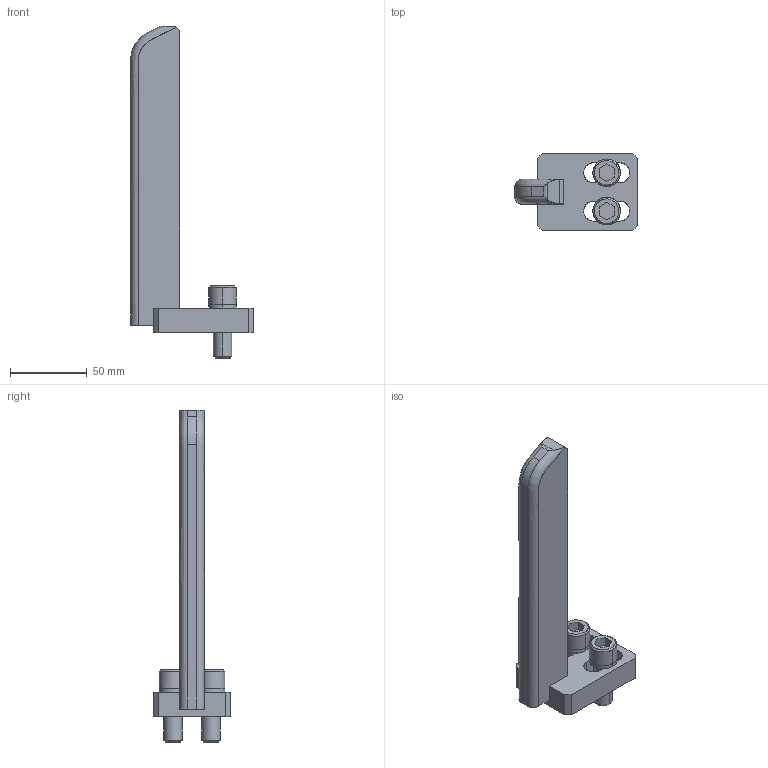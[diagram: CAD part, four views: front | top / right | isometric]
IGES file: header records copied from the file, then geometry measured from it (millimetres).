
Global section: file name: E:\UnigraphicsGraphicData\MISUMI_PRESS-PARTS\IGES\3d_ngga-200-190-20_01480_r00.igs; native system: NX V5.0; preprocessor: UGS NX IGES V5.0; author: MISUMI; date: 20110105.162029; units: millimetre
Bounding box: 80 x 50 x 216.5 mm (x, y, z)
Surface area: 36498.6 mm2 (no closed solid volume)
Topology: 0 solids, 0 shells, 103 faces, 660 edges, 660 vertices
Faces by surface type: bspline 103
